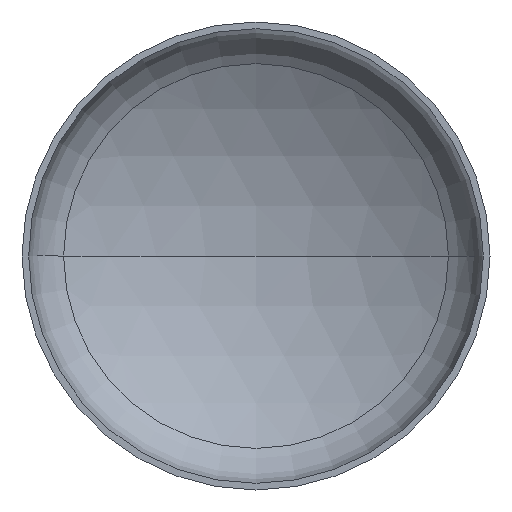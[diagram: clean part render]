
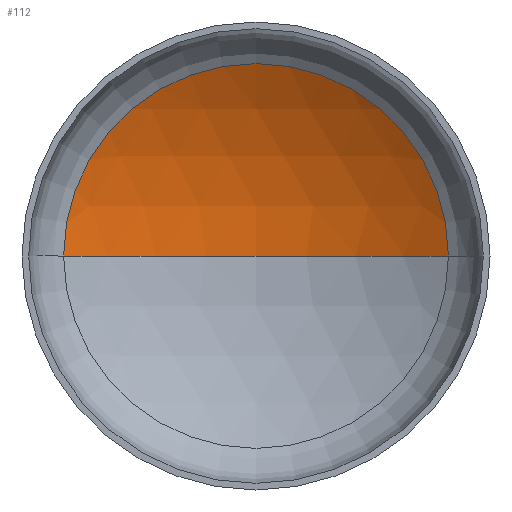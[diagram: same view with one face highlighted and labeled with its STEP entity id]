
A CAD part, front view. The second image highlights one B-rep face of the part: STEP entity #112.
In plain terms, the highlighted spherical face has radius 1120 mm.
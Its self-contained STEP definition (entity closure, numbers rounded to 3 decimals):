
#4 = DIRECTION ( 'NONE',  ( 0., 0., -1. ) ) ;
#8 = DIRECTION ( 'NONE',  ( 0., 0., 1. ) ) ;
#13 = CARTESIAN_POINT ( 'NONE',  ( 0., -716.402, 0. ) ) ;
#15 = AXIS2_PLACEMENT_3D ( 'NONE', #195, #297, #272 ) ;
#20 = AXIS2_PLACEMENT_3D ( 'NONE', #13, #8, #75 ) ;
#25 = AXIS2_PLACEMENT_3D ( 'NONE', #350, #4, #106 ) ;
#26 = AXIS2_PLACEMENT_3D ( 'NONE', #223, #225, #217 ) ;
#36 = EDGE_LOOP ( 'NONE', ( #87, #313, #193 ) ) ;
#67 = EDGE_CURVE ( 'NONE', #79, #145, #230, .T. ) ;
#69 = EDGE_CURVE ( 'NONE', #147, #79, #276, .T. ) ;
#70 = EDGE_CURVE ( 'NONE', #147, #145, #221, .T. ) ;
#75 = DIRECTION ( 'NONE',  ( 1., 0., 0. ) ) ;
#79 = VERTEX_POINT ( 'NONE', #198 ) ;
#87 = ORIENTED_EDGE ( 'NONE', *, *, #70, .F. ) ;
#106 = DIRECTION ( 'NONE',  ( -1., 0., 0. ) ) ;
#112 = ADVANCED_FACE ( 'NONE', ( #399 ), #344, .F. ) ;
#145 = VERTEX_POINT ( 'NONE', #192 ) ;
#147 = VERTEX_POINT ( 'NONE', #407 ) ;
#192 = CARTESIAN_POINT ( 'NONE',  ( -575.47, 244.449, 0. ) ) ;
#193 = ORIENTED_EDGE ( 'NONE', *, *, #67, .T. ) ;
#195 = CARTESIAN_POINT ( 'NONE',  ( 0., -716.402, 0. ) ) ;
#198 = CARTESIAN_POINT ( 'NONE',  ( 575.47, 244.449, 0. ) ) ;
#217 = DIRECTION ( 'NONE',  ( 1., 0., 0. ) ) ;
#221 = CIRCLE ( 'NONE', #20, 1120. ) ;
#223 = CARTESIAN_POINT ( 'NONE',  ( 0., 244.449, 0. ) ) ;
#225 = DIRECTION ( 'NONE',  ( 0., -1., 0. ) ) ;
#230 = CIRCLE ( 'NONE', #26, 575.47 ) ;
#272 = DIRECTION ( 'NONE',  ( -1., 0., 0. ) ) ;
#276 = CIRCLE ( 'NONE', #25, 1120. ) ;
#297 = DIRECTION ( 'NONE',  ( 0., 0., -1. ) ) ;
#313 = ORIENTED_EDGE ( 'NONE', *, *, #69, .T. ) ;
#344 = SPHERICAL_SURFACE ( 'NONE', #15, 1120. ) ;
#350 = CARTESIAN_POINT ( 'NONE',  ( 0., -716.402, 0. ) ) ;
#399 = FACE_OUTER_BOUND ( 'NONE', #36, .T. ) ;
#407 = CARTESIAN_POINT ( 'NONE',  ( 0., 403.598, 0. ) ) ;
